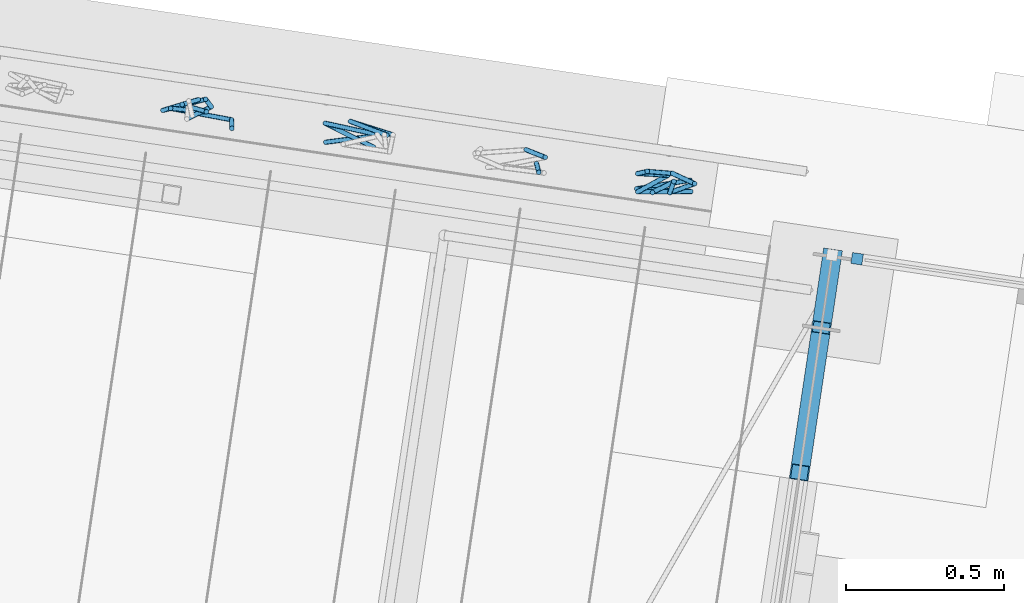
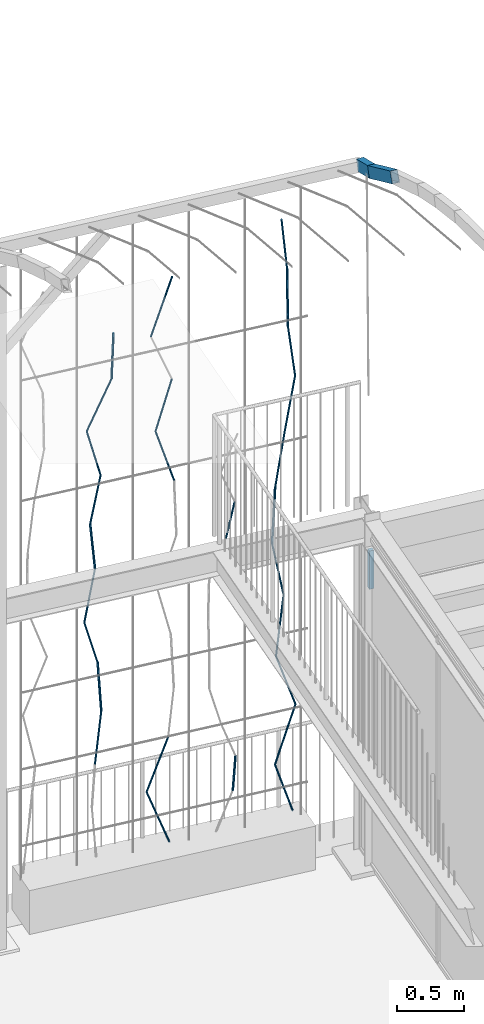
# One storey, part 110 of 142: 30 members, 2 elements without a shape of their own.
"""IFC4 building model written with IfcOpenShell, lengths in metres."""

from ifc_helpers import new_model, si_unit, direction, frame, origin_with_axes, place, context, subcontext, project, spatial, rectangle, hollow_rectangle, circle, extrude, material, material_profile, profile_set, profile_usage, type_object, element, aggregate, save


model = new_model("IFC4")

# Units and contexts
model_context = context("Model", 3, precision=1e-05, world=origin_with_axes(), true_north=direction((0.0, 1.0)))
body_context = subcontext(model_context, "Body", "Model", "MODEL_VIEW")
ifc_project = project(units=[si_unit("VOLUMEUNIT", "CUBIC_METRE"), si_unit("LENGTHUNIT", "METRE"), si_unit("AREAUNIT", "SQUARE_METRE")], contexts=[model_context])

# Site, building, storey
site_placement = place(None, origin_with_axes())
site = spatial("IfcSite", under=ifc_project, at=site_placement, Name="Lares · Rua das Mercês · artigo 4771")
building_placement = place(site_placement, frame((12.0, 10.2, 13.9), z_axis=(0.0, 0.0, 1.0), x_axis=(0.989015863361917, -0.147809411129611, 0.0)))
building = spatial("IfcBuilding", under=site, at=building_placement, Name="Casa Sobreposta")
storey_placement = place(building_placement, origin_with_axes())
storey = spatial("IfcBuildingStorey", under=building, at=storey_placement, Name="00 · Habitação e estacionamento", Elevation=13.9)

# Member
ifc_material_1 = material(Name="Aço pintado / Stahl lackiert", Category="steel")
ifc_material_profile_1 = material_profile(ifc_material_1, rectangle(XDim=0.035, YDim=0.035))
ifc_profile_set_1 = profile_set([ifc_material_profile_1], Name="R0.035")
ifc_profile_usage_1 = profile_usage(ifc_profile_set_1)
member_type_1 = type_object("IfcMemberType", Name="R0.035 / steel", PredefinedType="NOTDEFINED", material=ifc_profile_set_1)
member_1_placement = place(storey_placement, frame((0.08, 6.4, 2.35), z_axis=(0.0, 0.0, 1.0), x_axis=(1.0, 0.0, 0.0)))
element("IfcMember", 1, at=member_1_placement, inside=storey, type_object=member_type_1, material=ifc_profile_usage_1, Name="Rasgo norte 1 · montante", context=body_context, shape_type="SweptSolid", body=[
    extrude(rectangle(XDim=0.035, YDim=0.035), origin_with_axes(), (0.0, 0.0, 1.0), 0.35),
])

# Assembly, members
assembly_1_placement = place(storey_placement, origin_with_axes())
assembly_1 = element("IfcElementAssembly", 2, at=assembly_1_placement, inside=storey, Name="Pérgola · prolongamento da estufa 6 m", ObjectType="PERGOLA_GREENHOUSE_EXTENSION", PredefinedType="USERDEFINED")
ifc_material_profile_2 = material_profile(ifc_material_1, hollow_rectangle(XDim=0.06, YDim=0.1, WallThickness=0.004))
ifc_profile_set_2 = profile_set([ifc_material_profile_2], Name="RHS100x60x4")
ifc_profile_usage_2 = profile_usage(ifc_profile_set_2)
member_type_2 = type_object("IfcMemberType", Name="RHS100x60x4 / steel", PredefinedType="NOTDEFINED", material=ifc_profile_set_2)
member_2_placement = place(assembly_1_placement, frame((0.0, 5.70303916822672, 6.57620268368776), z_axis=(0.0, 0.878867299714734, -0.477066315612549), x_axis=(1.0, 0.0, 0.0)))
member_2 = element("IfcMember", 3, at=member_2_placement, type_object=member_type_2, material=ifc_profile_usage_2, Name="Pérgola · arco contínuo com a estufa", context=body_context, shape_type="SweptSolid", body=[
    extrude(hollow_rectangle(XDim=0.06, YDim=0.1, WallThickness=0.004), origin_with_axes(), (0.0, 0.0, 1.0), 0.52859183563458),
])
ifc_profile_usage_3 = profile_usage(ifc_profile_set_2)
member_3_placement = place(assembly_1_placement, frame((0.0, 6.16760124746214, 6.3240293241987), z_axis=(0.0, 0.932880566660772, -0.360185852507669), x_axis=(1.0, 0.0, 0.0)))
member_3 = element("IfcMember", 4, at=member_3_placement, type_object=member_type_2, material=ifc_profile_usage_3, Name="Pérgola · arco contínuo com a estufa", context=body_context, shape_type="SweptSolid", body=[
    extrude(hollow_rectangle(XDim=0.06, YDim=0.1, WallThickness=0.004), origin_with_axes(), (0.0, 0.0, 1.0), 0.249119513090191),
])
aggregate(assembly_1, [member_2, member_3])

assembly_2_placement = place(storey_placement, origin_with_axes())
assembly_2 = element("IfcElementAssembly", 5, at=assembly_2_placement, inside=storey, Name="Fachada sul e pátio · estrutura e trepadeiras", ObjectType="LIVING_SHADE_TRELLIS", PredefinedType="USERDEFINED")
ifc_material_2 = material(Name="Ramos de trepadeiras", Category="wood")
ifc_material_profile_3 = material_profile(ifc_material_2, circle(Radius=0.0075))
ifc_profile_set_3 = profile_set([ifc_material_profile_3], Name="D0.015")
ifc_profile_usage_4 = profile_usage(ifc_profile_set_3)
member_type_3 = type_object("IfcMemberType", Name="D0.015 / vine_wood", PredefinedType="NOTDEFINED", material=ifc_profile_set_3)
member_4_placement = place(assembly_2_placement, frame((-2.08687452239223, 6.52405887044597, 1.21683684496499), z_axis=(0.159219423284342, 0.113560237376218, 0.980690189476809), x_axis=(0.580669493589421, -0.814139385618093, 0.0)))
member_4 = element("IfcMember", 6, at=member_4_placement, type_object=member_type_3, material=ifc_profile_usage_4, Name="Trepadeiras · ramo", context=body_context, shape_type="SweptSolid", body=[
    extrude(circle(Radius=0.0075), origin_with_axes(), (0.0, 0.0, 1.0), 0.441952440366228),
])
ifc_profile_usage_5 = profile_usage(ifc_profile_set_3)
member_5_placement = place(assembly_2_placement, frame((-2.01650710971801, 6.57424709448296, 1.65025526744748), z_axis=(-0.0483811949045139, 0.0474077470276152, 0.997703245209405), x_axis=(0.699884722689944, 0.714255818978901, 0.0)))
member_5 = element("IfcMember", 7, at=member_5_placement, type_object=member_type_3, material=ifc_profile_usage_5, Name="Trepadeiras · ramo", context=body_context, shape_type="SweptSolid", body=[
    extrude(circle(Radius=0.0075), origin_with_axes(), (0.0, 0.0, 1.0), 0.434416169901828),
])
ifc_profile_usage_6 = profile_usage(ifc_profile_set_3)
member_6_placement = place(assembly_2_placement, frame((-2.03752468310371, 6.59484178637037, 2.08367368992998), z_axis=(-0.28279176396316, -0.120579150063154, 0.95157211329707), x_axis=(-0.392222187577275, 0.919870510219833, -2.14779037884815e-17)))
member_6 = element("IfcMember", 8, at=member_6_placement, type_object=member_type_3, material=ifc_profile_usage_6, Name="Trepadeiras · ramo", context=body_context, shape_type="SweptSolid", body=[
    extrude(circle(Radius=0.0075), origin_with_axes(), (0.0, 0.0, 1.0), 0.455476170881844),
])
ifc_profile_usage_7 = profile_usage(ifc_profile_set_3)
member_7_placement = place(assembly_2_placement, frame((-2.16632959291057, 6.53992085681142, 2.51709211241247), z_axis=(0.235859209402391, 0.111435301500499, 0.965376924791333), x_axis=(0.427186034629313, -0.904163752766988, 0.0)))
member_7 = element("IfcMember", 9, at=member_7_placement, type_object=member_type_3, material=ifc_profile_usage_7, Name="Trepadeiras · ramo", context=body_context, shape_type="SweptSolid", body=[
    extrude(circle(Radius=0.0075), origin_with_axes(), (0.0, 0.0, 1.0), 0.448962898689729),
])
ifc_profile_usage_8 = profile_usage(ifc_profile_set_3)
member_8_placement = place(assembly_2_placement, frame((-2.0604375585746, 6.58995117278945, 2.95051053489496), z_axis=(-0.110181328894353, -0.0517286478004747, 0.992564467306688), x_axis=(-0.424980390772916, 0.905202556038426, 0.0)))
member_8 = element("IfcMember", 10, at=member_8_placement, type_object=member_type_3, material=ifc_profile_usage_8, Name="Trepadeiras · ramo", context=body_context, shape_type="SweptSolid", body=[
    extrude(circle(Radius=0.0075), origin_with_axes(), (0.0, 0.0, 1.0), 0.436665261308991),
])
ifc_profile_usage_9 = profile_usage(ifc_profile_set_3)
member_9_placement = place(assembly_2_placement, frame((-2.10854991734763, 6.56736306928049, 3.38392895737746), z_axis=(0.180465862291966, -0.0257609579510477, 0.983243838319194), x_axis=(-0.141314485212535, -0.989964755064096, 0.0)))
member_9 = element("IfcMember", 11, at=member_9_placement, type_object=member_type_3, material=ifc_profile_usage_9, Name="Trepadeiras · ramo", context=body_context, shape_type="SweptSolid", body=[
    extrude(circle(Radius=0.0075), origin_with_axes(), (0.0, 0.0, 1.0), 0.440804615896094),
])
ifc_profile_usage_10 = profile_usage(ifc_profile_set_3)
member_10_placement = place(assembly_2_placement, frame((-2.02899973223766, 6.55600752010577, 3.81734737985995), z_axis=(-0.254599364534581, -0.0136352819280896, 0.966950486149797), x_axis=(-0.053479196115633, 0.998568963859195, 0.0)))
member_10 = element("IfcMember", 12, at=member_10_placement, type_object=member_type_3, material=ifc_profile_usage_10, Name="Trepadeiras · ramo", context=body_context, shape_type="SweptSolid", body=[
    extrude(circle(Radius=0.0075), origin_with_axes(), (0.0, 0.0, 1.0), 0.448232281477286),
])
ifc_profile_usage_11 = profile_usage(ifc_profile_set_3)
member_11_placement = place(assembly_2_placement, frame((-2.14311938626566, 6.54989574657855, 4.25076580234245), z_axis=(0.413277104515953, -0.0153882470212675, 0.910475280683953), x_axis=(-0.0372089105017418, -0.999307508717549, 1.90952884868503e-18)))
member_11 = element("IfcMember", 13, at=member_11_placement, type_object=member_type_3, material=ifc_profile_usage_11, Name="Trepadeiras · ramo", context=body_context, shape_type="SweptSolid", body=[
    extrude(circle(Radius=0.0075), origin_with_axes(), (0.0, 0.0, 1.0), 0.476035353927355),
])
ifc_profile_usage_12 = profile_usage(ifc_profile_set_3)
member_12_placement = place(assembly_2_placement, frame((-1.94638487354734, 6.54257039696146, 4.68418422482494), z_axis=(0.0110075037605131, -0.061857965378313, 0.998024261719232), x_axis=(-0.984533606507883, -0.175195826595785, 0.0)))
member_12 = element("IfcMember", 14, at=member_12_placement, type_object=member_type_3, material=ifc_profile_usage_12, Name="Trepadeiras · ramo", context=body_context, shape_type="SweptSolid", body=[
    extrude(circle(Radius=0.0075), origin_with_axes(), (0.0, 0.0, 1.0), 0.434276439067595),
])
ifc_profile_usage_13 = profile_usage(ifc_profile_set_3)
member_13_placement = place(assembly_2_placement, frame((-1.4880449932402, 6.52300224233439, 0.35), z_axis=(-0.329931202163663, 0.106180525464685, 0.938014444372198), x_axis=(0.306352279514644, 0.951918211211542, 0.0)))
member_13 = element("IfcMember", 15, at=member_13_placement, type_object=member_type_3, material=ifc_profile_usage_13, Name="Trepadeiras · ramo", context=body_context, shape_type="SweptSolid", body=[
    extrude(circle(Radius=0.0075), origin_with_axes(), (0.0, 0.0, 1.0), 0.496490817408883),
])
ifc_profile_usage_14 = profile_usage(ifc_profile_set_3)
member_14_placement = place(assembly_2_placement, frame((-1.65185280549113, 6.57571989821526, 0.815715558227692), z_axis=(0.340456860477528, -0.0227078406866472, 0.939985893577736), x_axis=(-0.0665502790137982, -0.997783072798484, 0.0)))
member_14 = element("IfcMember", 16, at=member_14_placement, type_object=member_type_3, material=ifc_profile_usage_14, Name="Trepadeiras · ramo", context=body_context, shape_type="SweptSolid", body=[
    extrude(circle(Radius=0.0075), origin_with_axes(), (0.0, 0.0, 1.0), 0.495449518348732),
])
ifc_profile_usage_15 = profile_usage(ifc_profile_set_3)
member_15_placement = place(assembly_2_placement, frame((-1.43331153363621, 6.57084724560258, 3.61000890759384), z_axis=(-0.287457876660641, 0.0458000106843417, 0.956697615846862), x_axis=(0.157343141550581, 0.987543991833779, 0.0)))
member_15 = element("IfcMember", 17, at=member_15_placement, type_object=member_type_3, material=ifc_profile_usage_15, Name="Trepadeiras · ramo", context=body_context, shape_type="SweptSolid", body=[
    extrude(circle(Radius=0.0075), origin_with_axes(), (0.0, 0.0, 1.0), 0.486794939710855),
])
ifc_profile_usage_16 = profile_usage(ifc_profile_set_3)
member_16_placement = place(assembly_2_placement, frame((-1.57324457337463, 6.59314245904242, 4.07572446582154), z_axis=(0.251593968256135, -0.0539595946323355, 0.966327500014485), x_axis=(-0.209702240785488, -0.977765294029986, 6.51461848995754e-18)))
member_16 = element("IfcMember", 18, at=member_16_placement, type_object=member_type_3, material=ifc_profile_usage_16, Name="Trepadeiras · ramo", context=body_context, shape_type="SweptSolid", body=[
    extrude(circle(Radius=0.0075), origin_with_axes(), (0.0, 0.0, 1.0), 0.481943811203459),
])
ifc_profile_usage_17 = profile_usage(ifc_profile_set_3)
member_17_placement = place(assembly_2_placement, frame((-1.64088161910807, 6.51634708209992, 5.00715558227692), z_axis=(0.381785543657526, 0.109148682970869, 0.917783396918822), x_axis=(0.274877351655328, -0.961479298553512, 0.0)))
member_17 = element("IfcMember", 19, at=member_17_placement, type_object=member_type_3, material=ifc_profile_usage_17, Name="Trepadeiras · ramo", context=body_context, shape_type="SweptSolid", body=[
    extrude(circle(Radius=0.0075), origin_with_axes(), (0.0, 0.0, 1.0), 0.507435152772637),
])
ifc_profile_usage_18 = profile_usage(ifc_profile_set_3)
member_18_placement = place(assembly_2_placement, frame((-0.969918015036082, 6.54809750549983, 0.676396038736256), z_axis=(0.03525048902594, -0.0797363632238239, 0.996192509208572), x_axis=(-0.914609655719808, -0.404337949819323, 0.0)))
member_18 = element("IfcMember", 20, at=member_18_placement, type_object=member_type_3, material=ifc_profile_usage_18, Name="Trepadeiras · ramo", context=body_context, shape_type="SweptSolid", body=[
    extrude(circle(Radius=0.0075), origin_with_axes(), (0.0, 0.0, 1.0), 0.327643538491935),
])
ifc_profile_usage_19 = profile_usage(ifc_profile_set_3)
member_19_placement = place(assembly_2_placement, frame((-1.00911853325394, 6.58665328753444, 2.96116830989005), z_axis=(0.190447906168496, -0.0442232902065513, 0.980700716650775), x_axis=(-0.226188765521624, -0.974083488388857, 0.0)))
member_19 = element("IfcMember", 21, at=member_19_placement, type_object=member_type_3, material=ifc_profile_usage_19, Name="Trepadeiras · ramo", context=body_context, shape_type="SweptSolid", body=[
    extrude(circle(Radius=0.0075), origin_with_axes(), (0.0, 0.0, 1.0), 0.332819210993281),
])
ifc_profile_usage_20 = profile_usage(ifc_profile_set_3)
member_20_placement = place(assembly_2_placement, frame((-0.480399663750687, 6.56797704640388, 0.35), z_axis=(-0.311350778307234, -0.0987830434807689, 0.945146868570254), x_axis=(-0.302416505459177, 0.953175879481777, 0.0)))
member_20 = element("IfcMember", 22, at=member_20_placement, type_object=member_type_3, material=ifc_profile_usage_20, Name="Trepadeiras · ramo", context=body_context, shape_type="SweptSolid", body=[
    extrude(circle(Radius=0.0075), origin_with_axes(), (0.0, 0.0, 1.0), 0.525354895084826),
])
ifc_profile_usage_21 = profile_usage(ifc_profile_set_3)
member_21_placement = place(assembly_2_placement, frame((-0.643969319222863, 6.51608089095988, 0.846537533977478), z_axis=(0.326477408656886, 0.0315753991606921, 0.944677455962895), x_axis=(0.0962662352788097, -0.995355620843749, 0.0)))
member_21 = element("IfcMember", 23, at=member_21_placement, type_object=member_type_3, material=ifc_profile_usage_21, Name="Trepadeiras · ramo", context=body_context, shape_type="SweptSolid", body=[
    extrude(circle(Radius=0.0075), origin_with_axes(), (0.0, 0.0, 1.0), 0.525615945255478),
])
ifc_profile_usage_22 = profile_usage(ifc_profile_set_3)
member_22_placement = place(assembly_2_placement, frame((-0.472367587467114, 6.53267742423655, 1.34307506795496), z_axis=(-0.317839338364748, -0.0486385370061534, 0.946896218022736), x_axis=(-0.151267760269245, 0.98849282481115, 0.0)))
member_22 = element("IfcMember", 24, at=member_22_placement, type_object=member_type_3, material=ifc_profile_usage_22, Name="Trepadeiras · ramo", context=body_context, shape_type="SweptSolid", body=[
    extrude(circle(Radius=0.0075), origin_with_axes(), (0.0, 0.0, 1.0), 0.524384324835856),
])
ifc_profile_usage_23 = profile_usage(ifc_profile_set_3)
member_23_placement = place(assembly_2_placement, frame((-0.639037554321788, 6.50717213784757, 1.83961260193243), z_axis=(0.170832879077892, 0.130242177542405, 0.976654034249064), x_axis=(0.606289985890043, -0.795243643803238, 0.0)))
member_23 = element("IfcMember", 25, at=member_23_placement, type_object=member_type_3, material=ifc_profile_usage_23, Name="Trepadeiras · ramo", context=body_context, shape_type="SweptSolid", body=[
    extrude(circle(Radius=0.0075), origin_with_axes(), (0.0, 0.0, 1.0), 0.508406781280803),
])
ifc_profile_usage_24 = profile_usage(ifc_profile_set_3)
member_24_placement = place(assembly_2_placement, frame((-0.552184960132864, 6.57338814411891, 2.33615013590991), z_axis=(-0.188994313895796, -0.0178059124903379, 0.98181673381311), x_axis=(-0.0937986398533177, 0.995591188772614, 0.0)))
member_24 = element("IfcMember", 26, at=member_24_placement, type_object=member_type_3, material=ifc_profile_usage_24, Name="Trepadeiras · ramo", context=body_context, shape_type="SweptSolid", body=[
    extrude(circle(Radius=0.0075), origin_with_axes(), (0.0, 0.0, 1.0), 0.505733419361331),
])
ifc_profile_usage_25 = profile_usage(ifc_profile_set_3)
member_25_placement = place(assembly_2_placement, frame((-0.647765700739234, 6.56438309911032, 2.83268766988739), z_axis=(0.0575558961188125, 0.0225222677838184, 0.998088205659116), x_axis=(0.364404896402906, -0.931240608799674, 0.0)))
member_25 = element("IfcMember", 27, at=member_25_placement, type_object=member_type_3, material=ifc_profile_usage_25, Name="Trepadeiras · ramo", context=body_context, shape_type="SweptSolid", body=[
    extrude(circle(Radius=0.0075), origin_with_axes(), (0.0, 0.0, 1.0), 0.497488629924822),
])
ifc_profile_usage_26 = profile_usage(ifc_profile_set_3)
member_26_placement = place(assembly_2_placement, frame((-0.61913229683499, 6.57558767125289, 3.32922520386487), z_axis=(0.160045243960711, 0.0106902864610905, 0.987051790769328), x_axis=(0.0666468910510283, -0.997776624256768, 0.0)))
member_26 = element("IfcMember", 28, at=member_26_placement, type_object=member_type_3, material=ifc_profile_usage_26, Name="Trepadeiras · ramo", context=body_context, shape_type="SweptSolid", body=[
    extrude(circle(Radius=0.0075), origin_with_axes(), (0.0, 0.0, 1.0), 0.503051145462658),
])
ifc_profile_usage_27 = profile_usage(ifc_profile_set_3)
member_27_placement = place(assembly_2_placement, frame((-0.538621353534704, 6.58096543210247, 3.82576273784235), z_axis=(0.146833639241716, -0.0429633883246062, 0.988227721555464), x_axis=(-0.280824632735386, -0.959759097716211, 0.0)))
member_27 = element("IfcMember", 29, at=member_27_placement, type_object=member_type_3, material=ifc_profile_usage_27, Name="Trepadeiras · ramo", context=body_context, shape_type="SweptSolid", body=[
    extrude(circle(Radius=0.0075), origin_with_axes(), (0.0, 0.0, 1.0), 0.502452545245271),
])
ifc_profile_usage_28 = profile_usage(ifc_profile_set_3)
member_28_placement = place(assembly_2_placement, frame((-0.464844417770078, 6.55937836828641, 4.32230027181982), z_axis=(-0.145740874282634, -0.0785755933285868, 0.986197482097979), x_axis=(-0.474566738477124, 0.880219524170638, 0.0)))
member_28 = element("IfcMember", 30, at=member_28_placement, type_object=member_type_3, material=ifc_profile_usage_28, Name="Trepadeiras · ramo", context=body_context, shape_type="SweptSolid", body=[
    extrude(circle(Radius=0.0075), origin_with_axes(), (0.0, 0.0, 1.0), 0.503486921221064),
])
ifc_profile_usage_29 = profile_usage(ifc_profile_set_3)
member_29_placement = place(assembly_2_placement, frame((-0.538223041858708, 6.51981658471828, 4.8188378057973), z_axis=(0.0151393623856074, 0.0732132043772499, 0.997201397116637), x_axis=(0.979282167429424, -0.202500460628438, 0.0)))
member_29 = element("IfcMember", 31, at=member_29_placement, type_object=member_type_3, material=ifc_profile_usage_29, Name="Trepadeiras · ramo", context=body_context, shape_type="SweptSolid", body=[
    extrude(circle(Radius=0.0075), origin_with_axes(), (0.0, 0.0, 1.0), 0.497931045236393),
])
ifc_profile_usage_30 = profile_usage(ifc_profile_set_3)
member_30_placement = place(assembly_2_placement, frame((-0.53068468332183, 6.55627171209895, 5.31537533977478), z_axis=(-0.123411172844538, -0.0880727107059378, 0.988439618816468), x_axis=(-0.580896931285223, 0.813977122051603, 0.0)))
member_30 = element("IfcMember", 32, at=member_30_placement, type_object=member_type_3, material=ifc_profile_usage_30, Name="Trepadeiras · ramo", context=body_context, shape_type="SweptSolid", body=[
    extrude(circle(Radius=0.0075), origin_with_axes(), (0.0, 0.0, 1.0), 0.502344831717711),
])
aggregate(assembly_2, [member_4, member_5, member_6, member_7, member_8, member_9, member_10, member_11, member_12, member_13, member_14, member_15, member_16, member_17, member_18, member_19, member_20, member_21, member_22, member_23, member_24, member_25, member_26, member_27, member_28, member_29, member_30])

save(model, "model.ifc")
